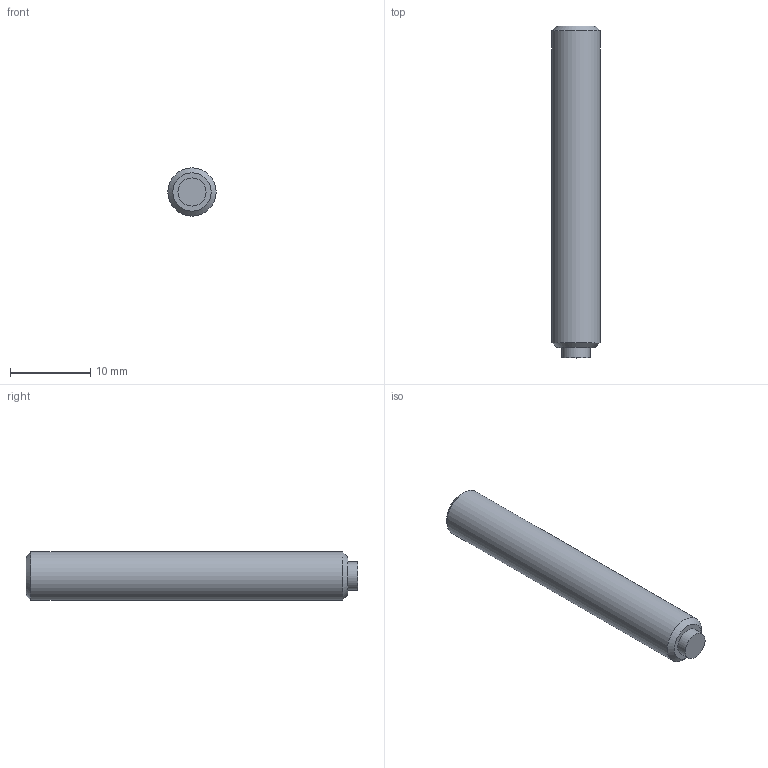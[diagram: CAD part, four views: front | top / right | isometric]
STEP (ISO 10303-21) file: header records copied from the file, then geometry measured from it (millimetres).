
FILE_DESCRIPTION( ( 'STEP AP203' ), '1' );
FILE_NAME( 'C:/Temp/Ganter_Step_05_03_2020/data/3_2/gn913_3/Grub screw GN 913.3-M6-40-KU.stp', '2020-03-13T05:35:37', ( 'License CC BY-ND 4.0' ), ( 'CADENAS' ), ' ', 'PARTsolutions', ' ' );
FILE_SCHEMA( ( 'CONFIG_CONTROL_DESIGN' ) );
Length unit declared in the file: millimetre
Products named in the file (1): _Grub screw GN 913.3-M6-40-KU
Bounding box: 6 x 41.3 x 6 mm (x, y, z)
Volume: 1109.6 mm3; surface area: 846.7 mm2
Topology: 1 solids, 1 shells, 14 faces, 28 edges, 18 vertices
Faces by surface type: plane 10, cylinder 2, cone 2
Full cylindrical faces by diameter (mm): 3.5 x1, 6 x1
Entity records: 386 total; most frequent: DIRECTION 60, CARTESIAN_POINT 57, ORIENTED_EDGE 48, EDGE_CURVE 24, AXIS2_PLACEMENT_3D 21, EDGE_LOOP 20, VERTEX_POINT 18, LINE 18
